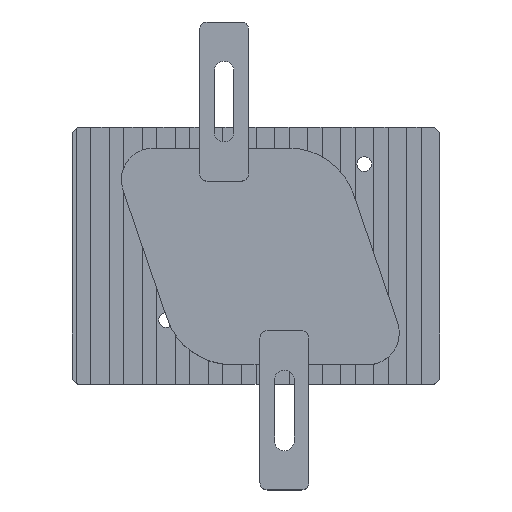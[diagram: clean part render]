
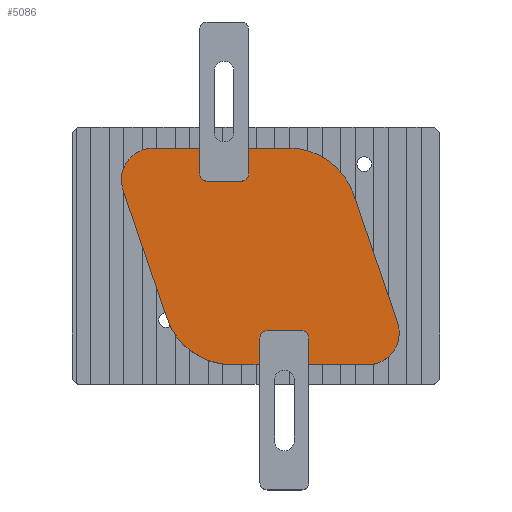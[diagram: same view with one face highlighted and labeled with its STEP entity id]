
A CAD part, top view. The second image highlights one B-rep face of the part: STEP entity #5086.
In plain terms, the highlighted planar face has unit normal (0, 0, 1).
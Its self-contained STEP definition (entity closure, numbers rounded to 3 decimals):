
#4799=CARTESIAN_POINT('',(0.703,71.32,-12.487));
#4800=VERTEX_POINT('',#4799);
#4801=CARTESIAN_POINT('',(18.669,18.919,-12.487));
#4802=VERTEX_POINT('',#4801);
#4803=CARTESIAN_POINT('',(0.703,71.32,-12.487));
#4804=DIRECTION('',(0.324,-0.946,0.0));
#4805=VECTOR('',#4804,1.0);
#4806=LINE('',#4803,#4805);
#4807=EDGE_CURVE('',#4800,#4802,#4806,.T.);
#4839=CARTESIAN_POINT('',(45.155,0.0,-12.487));
#4840=VERTEX_POINT('',#4839);
#4841=CARTESIAN_POINT('',(45.155,28.0,-12.487));
#4842=DIRECTION('',(0.0,0.0,1.0));
#4843=DIRECTION('',(1.0,0.0,0.0));
#4844=AXIS2_PLACEMENT_3D('',#4841,#4842,#4843);
#4845=CIRCLE('',#4844,28.0);
#4846=EDGE_CURVE('',#4802,#4840,#4845,.T.);
#4872=CARTESIAN_POINT('',(100.55,0.,-12.487));
#4873=VERTEX_POINT('',#4872);
#4874=CARTESIAN_POINT('',(45.155,0.0,-12.487));
#4875=DIRECTION('',(1.0,0.,0.0));
#4876=VECTOR('',#4875,1.0);
#4877=LINE('',#4874,#4876);
#4878=EDGE_CURVE('',#4840,#4873,#4877,.T.);
#4903=CARTESIAN_POINT('',(112.847,17.216,-12.487));
#4904=VERTEX_POINT('',#4903);
#4905=CARTESIAN_POINT('',(100.55,13.0,-12.487));
#4906=DIRECTION('',(0.0,0.0,1.0));
#4907=DIRECTION('',(1.0,0.0,0.0));
#4908=AXIS2_PLACEMENT_3D('',#4905,#4906,#4907);
#4909=CIRCLE('',#4908,13.0);
#4910=EDGE_CURVE('',#4873,#4904,#4909,.T.);
#4936=CARTESIAN_POINT('',(94.881,69.617,-12.487));
#4937=VERTEX_POINT('',#4936);
#4938=CARTESIAN_POINT('',(112.847,17.216,-12.487));
#4939=DIRECTION('',(-0.324,0.946,0.0));
#4940=VECTOR('',#4939,1.0);
#4941=LINE('',#4938,#4940);
#4942=EDGE_CURVE('',#4904,#4937,#4941,.T.);
#4967=CARTESIAN_POINT('',(68.395,88.536,-12.487));
#4968=VERTEX_POINT('',#4967);
#4969=CARTESIAN_POINT('',(68.395,60.536,-12.487));
#4970=DIRECTION('',(0.0,0.0,1.0));
#4971=DIRECTION('',(1.0,0.0,0.0));
#4972=AXIS2_PLACEMENT_3D('',#4969,#4970,#4971);
#4973=CIRCLE('',#4972,28.0);
#4974=EDGE_CURVE('',#4937,#4968,#4973,.T.);
#5000=CARTESIAN_POINT('',(13.,88.536,-12.487));
#5001=VERTEX_POINT('',#5000);
#5002=CARTESIAN_POINT('',(68.395,88.536,-12.487));
#5003=DIRECTION('',(-1.0,-0.0,0.0));
#5004=VECTOR('',#5003,1.0);
#5005=LINE('',#5002,#5004);
#5006=EDGE_CURVE('',#4968,#5001,#5005,.T.);
#5031=CARTESIAN_POINT('',(13.0,75.536,-12.487));
#5032=DIRECTION('',(0.0,0.0,1.0));
#5033=DIRECTION('',(1.0,0.0,0.0));
#5034=AXIS2_PLACEMENT_3D('',#5031,#5032,#5033);
#5035=CIRCLE('',#5034,13.0);
#5036=EDGE_CURVE('',#5001,#4800,#5035,.T.);
#5071=ORIENTED_EDGE('',*,*,#4846,.T.);
#5072=ORIENTED_EDGE('',*,*,#4878,.T.);
#5073=ORIENTED_EDGE('',*,*,#4910,.T.);
#5074=ORIENTED_EDGE('',*,*,#4942,.T.);
#5075=ORIENTED_EDGE('',*,*,#4974,.T.);
#5076=ORIENTED_EDGE('',*,*,#5006,.T.);
#5077=ORIENTED_EDGE('',*,*,#5036,.T.);
#5078=ORIENTED_EDGE('',*,*,#4807,.T.);
#5079=EDGE_LOOP('',(#5071,#5072,#5073,#5074,#5075,#5076,#5077,#5078));
#5080=FACE_OUTER_BOUND('',#5079,.T.);
#5081=CARTESIAN_POINT('',(-0.234,0.,-12.487));
#5082=DIRECTION('',(0.0,0.0,1.0));
#5083=DIRECTION('',(1.0,0.0,0.0));
#5084=AXIS2_PLACEMENT_3D('',#5081,#5082,#5083);
#5085=PLANE('',#5084);
#5086=ADVANCED_FACE('',(#5080),#5085,.T.);
